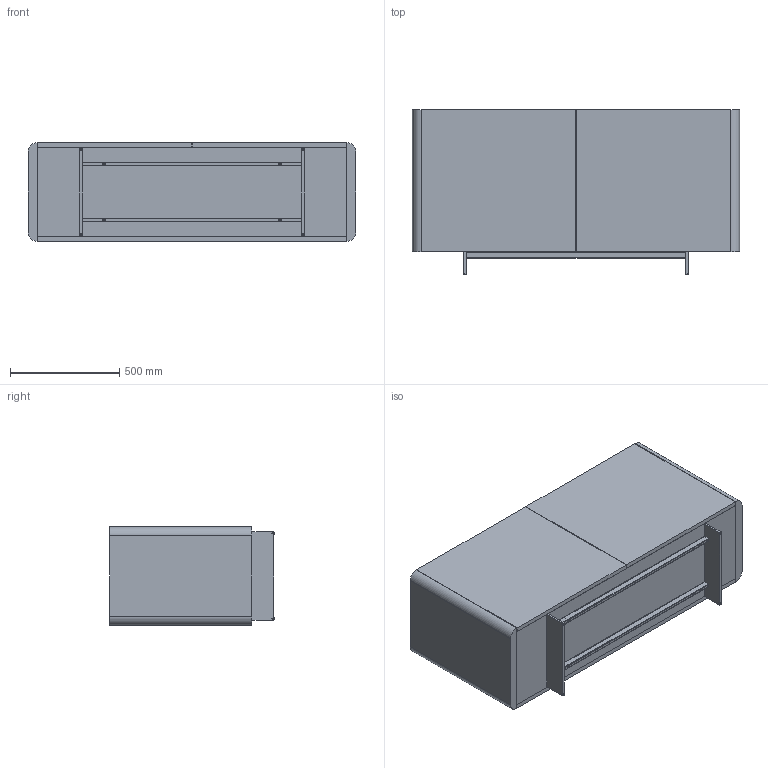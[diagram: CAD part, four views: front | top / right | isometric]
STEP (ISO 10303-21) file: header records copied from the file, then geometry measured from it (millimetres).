
FILE_DESCRIPTION (( 'STEP AP203' ), '1' );
FILE_NAME ('AL1LC_Alma_149,5x45x75h_Top Ceramic.STEP', '2024-08-06T07:59:20', ( '' ), ( '' ), 'SwSTEP 2.0', 'SolidWorks 2022', '' );
FILE_SCHEMA (( 'CONFIG_CONTROL_DESIGN' ));
Length unit declared in the file: millimetre
Products named in the file (6): KxxxX45-00-Piani Madie in ceramica_K1495X45; AL1000XX-02-BASE MADIA ALMA METALLO VERNICIATO_AL100004-BASE L147cm<A macchina>; AL1LC_Alma_149,5x45x75h_Top Ceramic; M6xXXmm_HEX_M6x40mm HEX; PIEDINO ALMA; ALC00002-01-CONTENITORE MADIA L149,5_alma rivestita
Assembly tree (11 placements, depth 2):
  AL1LC_Alma_149,5x45x75h_Top Ceramic
    KxxxX45-00-Piani Madie in ceramica_K1495X45
    ALC00002-01-CONTENITORE MADIA L149,5_alma rivestita
    AL1000XX-02-BASE MADIA ALMA METALLO VERNICIATO_AL100004-BASE L147cm<A macchina>
    M6xXXmm_HEX_M6x40mm HEX  x4
    PIEDINO ALMA  x4
Bounding box: 1495 x 753 x 450 mm (x, y, z)
Volume: 98197678.8 mm3; surface area: 9859097.7 mm2
Topology: 21 solids, 21 shells, 359 faces, 815 edges, 482 vertices
Faces by surface type: plane 187, cylinder 104, cone 52, torus 16
Entity records: 7539 total; most frequent: CARTESIAN_POINT 1264, DIRECTION 1199, ORIENTED_EDGE 1090, EDGE_CURVE 545, AXIS2_PLACEMENT_3D 426, LINE 347, VERTEX_POINT 347, VECTOR 347
